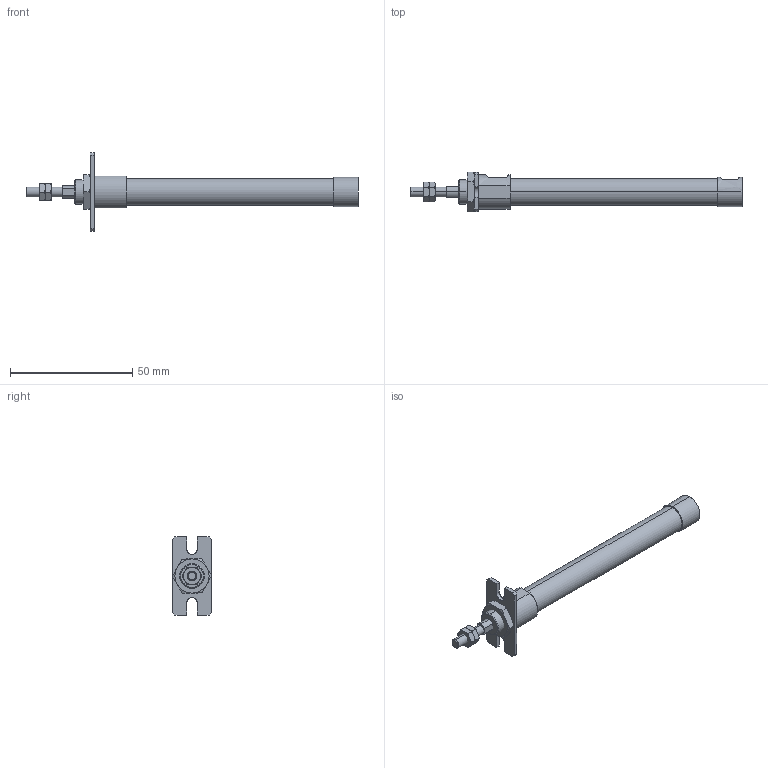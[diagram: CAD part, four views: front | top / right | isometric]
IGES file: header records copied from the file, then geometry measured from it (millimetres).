
Start section: SolidWorks IGES file using analytic representation for surfaces
Global section: file name: C:\Users\Toshiba\Desktop\ZGU2-10-60-A.IGS; native system: SolidWorks 2014; preprocessor: SolidWorks 2014; author: Toshiba; date: 160331.085436; units: millimetre
Bounding box: 136 x 16.16 x 32 mm (x, y, z)
Surface area: 6607.3 mm2 (no closed solid volume)
Topology: 0 solids, 0 shells, 129 faces, 1844 edges, 1840 vertices
Faces by surface type: bspline 93, revolution 36
